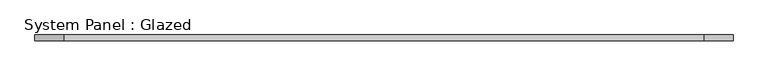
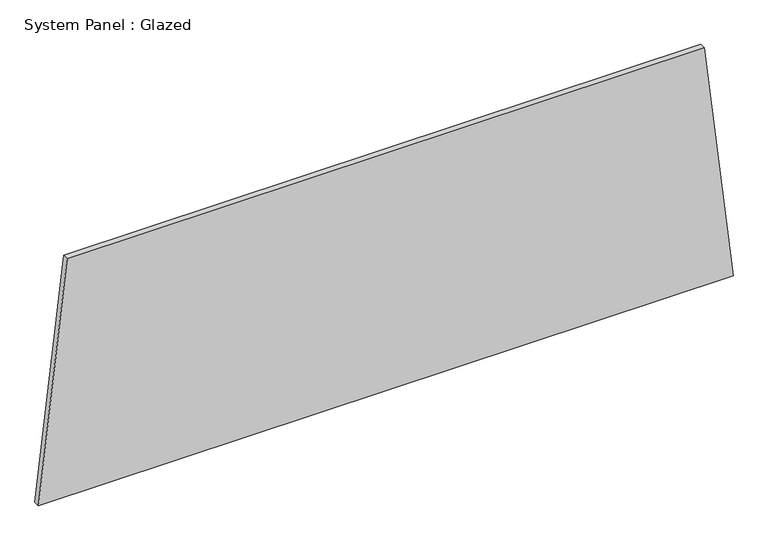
"""IFC4 building model written with IfcOpenShell, lengths in millimetres: plate geometry, System Panel : Glazed."""

from ifc_helpers import new_model, si_unit, frame, origin, place, context, project, spatial, polyline, outline, extrude, source, transform, mapped, element, save


def system_panel_glazed_15b653d3(model_context):
    return source(origin(), model_context, "Body", "SweptSolid", [
        extrude(outline(polyline([(0.0, -1467.6133258), (0.0, 1467.6133258), (1059.9187468, 1346.6402289), (1059.9187468, -1346.6402289), (0.0, -1467.6133258)])), frame((0.0, -44.45, 0.0), z_axis=(0.0, 1.0, 0.0), x_axis=(0.0, 0.0, 1.0)), (0.0, 0.0, 1.0), 25.4),
    ])


if __name__ == "__main__":
    model = new_model("IFC4")
    model_context = context("Model", 3, world=origin())
    ifc_project = project(units=[si_unit("LENGTHUNIT", "METRE", prefix="MILLI")], contexts=[model_context])
    site = spatial("IfcSite", under=ifc_project)
    building = spatial("IfcBuilding", under=site)
    placement = place(None, origin())
    system_panel_glazed_shape = system_panel_glazed_15b653d3(model_context)
    element("IfcPlate", 1, ObjectType="System Panel : Glazed", at=placement, inside=building, context=model_context, shape_type="MappedRepresentation", body=[
        mapped(system_panel_glazed_shape, transform((0.0, 0.0, 0.0), x_axis=(1.0, 0.0, 0.0), y_axis=(0.0, 1.0, 0.0), z_axis=(0.0, 0.0, 1.0))),
    ])
    save(model, "model.ifc")
